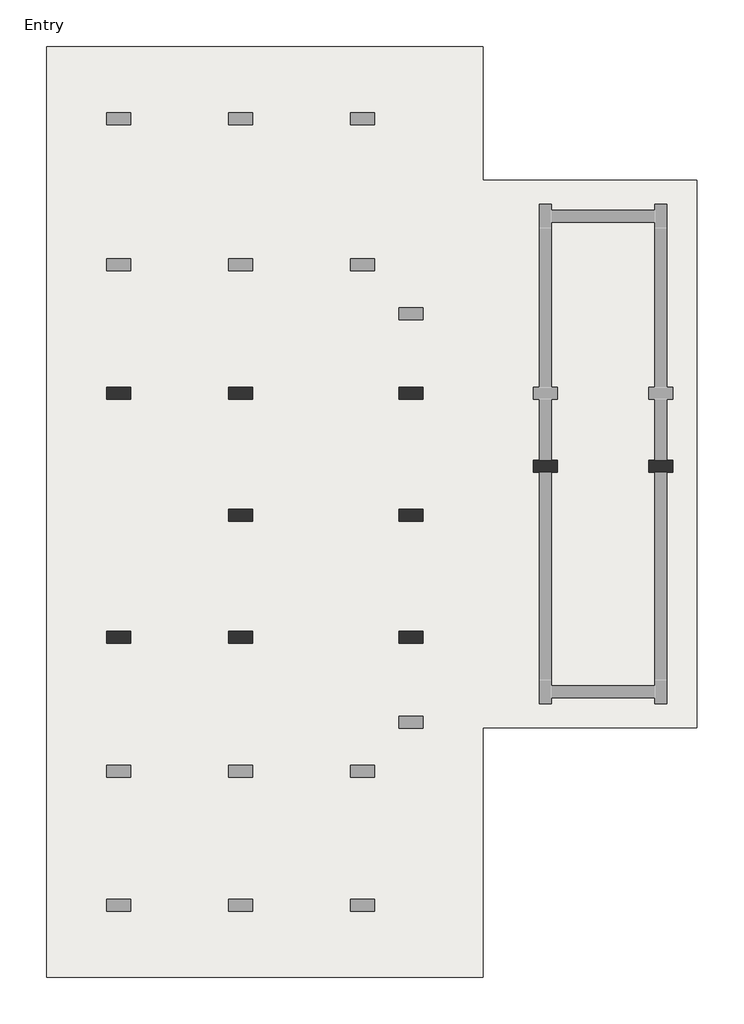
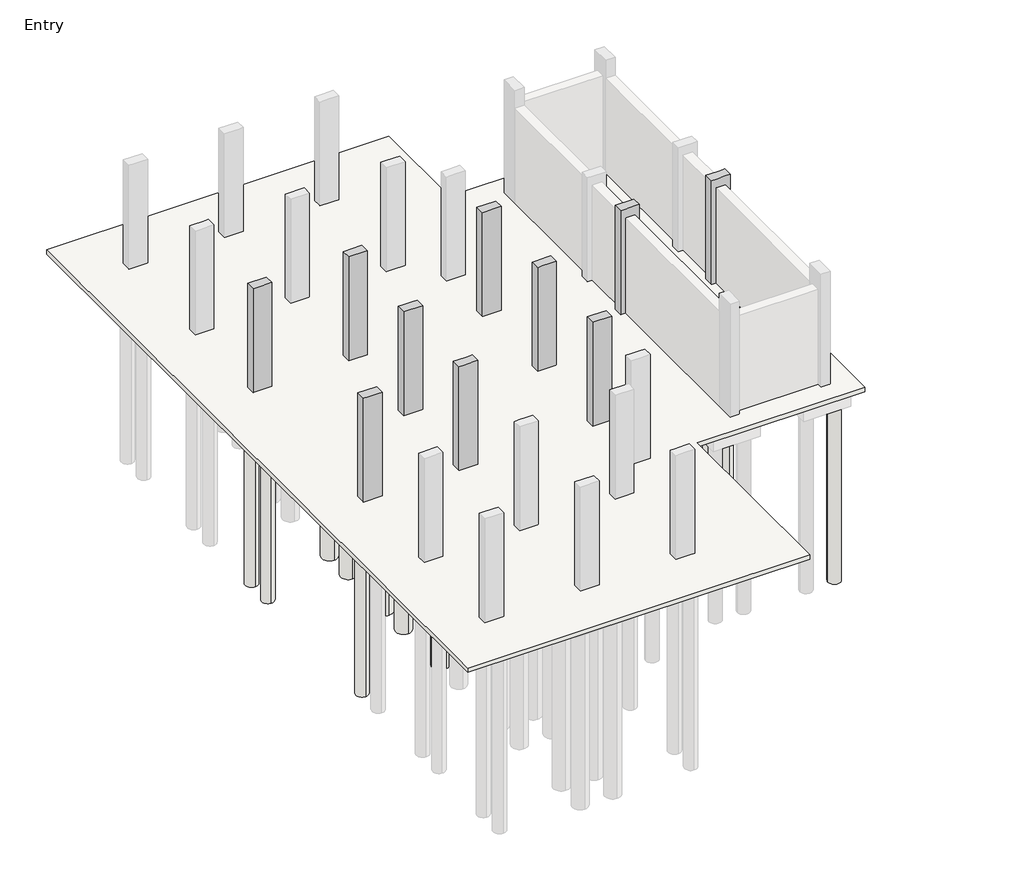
# One storey, part 2 of 3: 36 slabs, 10 columns, 3 footings.
"""IFC4 building model written with IfcOpenShell, lengths in millimetres."""

from ifc_helpers import new_model, si_unit, point, frame, frame_2d, origin, place, context, project, spatial, polyline, circle_curve, trimmed, segment, composite_curve, outline, extrude, faceted_brep, element, save

model = new_model("IFC4")

# Units and contexts
model_context = context("Model", 3, world=origin())
ifc_project = project(units=[si_unit("LENGTHUNIT", "METRE", prefix="MILLI")], contexts=[model_context])

# Site, building, storey
site = spatial("IfcSite", under=ifc_project)
building = spatial("IfcBuilding", under=site)
storey = spatial("IfcBuildingStorey", under=building, Name="Entry", Elevation=0.0)

# Columns
placement = place(None, origin())
element("IfcColumn", 1, ObjectType="M_Concrete-Rectangular-Column : 300 x 600mm", at=placement, inside=storey, context=model_context, shape_type="Brep", body=[
    faceted_brep([(-6997.5526929, 6449.19569, 0.0), (-6397.5526929, 6449.19569, 0.0), (-6397.5526929, 6149.19569, 0.0), (-6997.5526929, 6149.19569, 0.0), (-6997.5526929, 6449.19569, 3505.2), (-6397.5526929, 6449.19569, 3505.2), (-6397.5526929, 6449.19569, 2910.0), (-6997.5526929, 6449.19569, 2910.0), (-6397.5526929, 6149.19569, 3505.2), (-6397.5526929, 6149.19569, 2910.0), (-6997.5526929, 6149.19569, 3505.2), (-6997.5526929, 6149.19569, 2910.0)], [[[0, 1, 2, 3]], [[4, 5, 6, 1, 0, 7]], [[5, 8, 9, 2, 1, 6]], [[8, 10, 11, 3, 2, 9]], [[10, 4, 7, 0, 3, 11]], [[4, 10, 8, 5]]]),
])
element("IfcColumn", 2, ObjectType="M_Concrete-Rectangular-Column : 300 x 600mm", at=placement, inside=storey, context=model_context, shape_type="Brep", body=[
    faceted_brep([(-11264.7526929, 6449.19569, 0.0), (-10664.7526929, 6449.19569, 0.0), (-10664.7526929, 6149.19569, 0.0), (-11264.7526929, 6149.19569, 0.0), (-11264.7526929, 6449.19569, 3505.2), (-10664.7526929, 6449.19569, 3505.2), (-10664.7526929, 6449.19569, 2910.0), (-11264.7526929, 6449.19569, 2910.0), (-10664.7526929, 6149.19569, 3505.2), (-10664.7526929, 6149.19569, 2910.0), (-11264.7526929, 6149.19569, 3505.2), (-11264.7526929, 6149.19569, 2910.0)], [[[0, 1, 2, 3]], [[4, 5, 6, 1, 0, 7]], [[5, 8, 9, 2, 1, 6]], [[8, 10, 11, 3, 2, 9]], [[10, 4, 7, 0, 3, 11]], [[4, 10, 8, 5]]]),
])
element("IfcColumn", 3, ObjectType="M_Concrete-Rectangular-Column : 300 x 600mm", at=placement, inside=storey, context=model_context, shape_type="Brep", body=[
    faceted_brep([(-14312.7526929, 6449.19569, 0.0), (-13712.7526929, 6449.19569, 0.0), (-13712.7526929, 6149.19569, 0.0), (-14312.7526929, 6149.19569, 0.0), (-14312.7526929, 6449.19569, 3505.2), (-14162.7526929, 6449.19569, 3505.2), (-13862.7526929, 6449.19569, 3505.2), (-13712.7526929, 6449.19569, 3505.2), (-13712.7526929, 6449.19569, 2910.0), (-13712.7526929, 6149.19569, 3505.2), (-13712.7526929, 6149.19569, 2910.0), (-14012.7526929, 6149.19569, 3505.2), (-14312.7526929, 6149.19569, 3505.2)], [[[0, 1, 2, 3]], [[4, 5, 6, 7, 8, 1, 0]], [[7, 9, 10, 2, 1, 8]], [[9, 11, 12, 3, 2, 10]], [[12, 4, 0, 3]], [[4, 12, 11, 9, 7, 6, 5]]]),
])
element("IfcColumn", 4, ObjectType="M_Concrete-Rectangular-Column : 300 x 600mm", at=placement, inside=storey, context=model_context, shape_type="Brep", body=[
    faceted_brep([(-3644.7526929, 4620.39569, 0.0), (-3494.7526929, 4620.39569, 0.0), (-3194.7526929, 4620.39569, 0.0), (-3044.7526929, 4620.39569, 0.0), (-3044.7526929, 4320.39569, 0.0), (-3194.7526929, 4320.39569, 0.0), (-3494.7526929, 4320.39569, 0.0), (-3644.7526929, 4320.39569, 0.0), (-3644.7526929, 4620.39569, 2910.0), (-3644.7526929, 4620.39569, 3510.0), (-3494.7526929, 4620.39569, 3510.0), (-3194.7526929, 4620.39569, 3510.0), (-3044.7526929, 4620.39569, 3510.0), (-3044.7526929, 4620.39569, 2910.0), (-3044.7526929, 4320.39569, 3510.0), (-3044.7526929, 4320.39569, 2910.0), (-3194.7526929, 4320.39569, 3510.0), (-3494.7526929, 4320.39569, 3510.0), (-3644.7526929, 4320.39569, 3510.0), (-3644.7526929, 4320.39569, 2910.0)], [[[0, 1, 2, 3, 4, 5, 6, 7]], [[3, 2, 1, 0, 8, 9, 10, 11, 12, 13]], [[4, 3, 13, 12, 14, 15]], [[7, 6, 5, 4, 15, 14, 16, 17, 18, 19]], [[0, 7, 19, 18, 9, 8]], [[12, 11, 10, 9, 18, 17, 16, 14]]]),
])
element("IfcColumn", 5, ObjectType="M_Concrete-Rectangular-Column : 300 x 600mm", at=placement, inside=storey, context=model_context, shape_type="Brep", body=[
    faceted_brep([(-749.1526929, 4620.39569, 0.0), (-599.1526929, 4620.39569, 0.0), (-299.1526929, 4620.39569, 0.0), (-149.1526929, 4620.39569, 0.0), (-149.1526929, 4320.39569, 0.0), (-299.1526929, 4320.39569, 0.0), (-599.1526929, 4320.39569, 0.0), (-749.1526929, 4320.39569, 0.0), (-749.1526929, 4620.39569, 3510.0), (-599.1526929, 4620.39569, 3510.0), (-299.1526929, 4620.39569, 3510.0), (-149.1526929, 4620.39569, 3510.0), (-149.1526929, 4320.39569, 3510.0), (-299.1526929, 4320.39569, 3510.0), (-599.1526929, 4320.39569, 3510.0), (-749.1526929, 4320.39569, 3510.0)], [[[0, 1, 2, 3, 4, 5, 6, 7]], [[3, 2, 1, 0, 8, 9, 10, 11]], [[4, 3, 11, 12]], [[7, 6, 5, 4, 12, 13, 14, 15]], [[0, 7, 15, 8]], [[11, 10, 9, 8, 15, 14, 13, 12]]]),
])
element("IfcColumn", 6, ObjectType="M_Concrete-Rectangular-Column : 300 x 600mm", at=placement, inside=storey, context=model_context, shape_type="Brep", body=[
    faceted_brep([(-6997.5526929, 3401.19569, 0.0), (-6397.5526929, 3401.19569, 0.0), (-6397.5526929, 3101.19569, 0.0), (-6997.5526929, 3101.19569, 0.0), (-6997.5526929, 3401.19569, 3505.2), (-6847.5526929, 3401.19569, 3505.2), (-6547.5526929, 3401.19569, 3505.2), (-6397.5526929, 3401.19569, 3505.2), (-6397.5526929, 3101.19569, 3505.2), (-6547.5526929, 3101.19569, 3505.2), (-6847.5526929, 3101.19569, 3505.2), (-6997.5526929, 3101.19569, 3505.2)], [[[0, 1, 2, 3]], [[4, 5, 6, 7, 1, 0]], [[7, 8, 2, 1]], [[8, 9, 10, 11, 3, 2]], [[11, 4, 0, 3]], [[4, 11, 10, 9, 8, 7, 6, 5]]]),
])
element("IfcColumn", 7, ObjectType="M_Concrete-Rectangular-Column : 300 x 600mm", at=placement, inside=storey, context=model_context, shape_type="Brep", body=[
    faceted_brep([(-11264.7526929, 3401.19569, 0.0), (-10664.7526929, 3401.19569, 0.0), (-10664.7526929, 3101.19569, 0.0), (-11264.7526929, 3101.19569, 0.0), (-11264.7526929, 3401.19569, 3505.2), (-11114.7526929, 3401.19569, 3505.2), (-10814.7526929, 3401.19569, 3505.2), (-10664.7526929, 3401.19569, 3505.2), (-10664.7526929, 3101.19569, 3505.2), (-10814.7526929, 3101.19569, 3505.2), (-11114.7526929, 3101.19569, 3505.2), (-11264.7526929, 3101.19569, 3505.2)], [[[0, 1, 2, 3]], [[4, 5, 6, 7, 1, 0]], [[7, 8, 2, 1]], [[8, 9, 10, 11, 3, 2]], [[11, 4, 0, 3]], [[4, 11, 10, 9, 8, 7, 6, 5]]]),
])
element("IfcColumn", 8, ObjectType="M_Concrete-Rectangular-Column : 300 x 600mm", at=placement, inside=storey, context=model_context, shape_type="Brep", body=[
    faceted_brep([(-14312.7526929, 353.19569, 0.0), (-13712.7526929, 353.19569, 0.0), (-13712.7526929, 53.19569, 0.0), (-14312.7526929, 53.19569, 0.0), (-14312.7526929, 353.19569, 3505.2), (-14012.7526929, 353.19569, 3505.2), (-13712.7526929, 353.19569, 3505.2), (-13712.7526929, 353.19569, 2910.0), (-13712.7526929, 53.19569, 3505.2), (-13712.7526929, 53.19569, 2910.0), (-13862.7526929, 53.19569, 3505.2), (-14162.7526929, 53.19569, 3505.2), (-14312.7526929, 53.19569, 3505.2)], [[[0, 1, 2, 3]], [[4, 5, 6, 7, 1, 0]], [[6, 8, 9, 2, 1, 7]], [[8, 10, 11, 12, 3, 2, 9]], [[12, 4, 0, 3]], [[4, 12, 11, 10, 8, 6, 5]]]),
])
element("IfcColumn", 9, ObjectType="M_Concrete-Rectangular-Column : 300 x 600mm", at=placement, inside=storey, context=model_context, shape_type="Brep", body=[
    faceted_brep([(-11264.7526929, 353.19569, 0.0), (-10664.7526929, 353.19569, 0.0), (-10664.7526929, 53.19569, 0.0), (-11264.7526929, 53.19569, 0.0), (-11264.7526929, 353.19569, 3505.2), (-11114.7526929, 353.19569, 3505.2), (-10814.7526929, 353.19569, 3505.2), (-10664.7526929, 353.19569, 3505.2), (-10664.7526929, 353.19569, 2910.0), (-11264.7526929, 353.19569, 2910.0), (-10664.7526929, 53.19569, 3505.2), (-10664.7526929, 53.19569, 2910.0), (-10814.7526929, 53.19569, 3505.2), (-11114.7526929, 53.19569, 3505.2), (-11264.7526929, 53.19569, 3505.2), (-11264.7526929, 53.19569, 2910.0)], [[[0, 1, 2, 3]], [[4, 5, 6, 7, 8, 1, 0, 9]], [[7, 10, 11, 2, 1, 8]], [[10, 12, 13, 14, 15, 3, 2, 11]], [[14, 4, 9, 0, 3, 15]], [[4, 14, 13, 12, 10, 7, 6, 5]]]),
])
element("IfcColumn", 10, ObjectType="M_Concrete-Rectangular-Column : 300 x 600mm", at=placement, inside=storey, context=model_context, shape_type="Brep", body=[
    faceted_brep([(-6997.5526929, 353.19569, 0.0), (-6397.5526929, 353.19569, 0.0), (-6397.5526929, 53.19569, 0.0), (-6997.5526929, 53.19569, 0.0), (-6997.5526929, 353.19569, 3505.2), (-6847.5526929, 353.19569, 3505.2), (-6547.5526929, 353.19569, 3505.2), (-6397.5526929, 353.19569, 3505.2), (-6997.5526929, 353.19569, 2910.0), (-6397.5526929, 53.19569, 3505.2), (-6547.5526929, 53.19569, 3505.2), (-6847.5526929, 53.19569, 3505.2), (-6997.5526929, 53.19569, 3505.2), (-6997.5526929, 53.19569, 2910.0)], [[[0, 1, 2, 3]], [[4, 5, 6, 7, 1, 0, 8]], [[7, 9, 2, 1]], [[9, 10, 11, 12, 13, 3, 2]], [[12, 4, 8, 0, 3, 13]], [[4, 12, 11, 10, 9, 7, 6, 5]]]),
])

# Footings
element("IfcFooting", 11, ObjectType="Bearing Footing - 900 x 300", at=placement, inside=storey, context=model_context, shape_type="SweptSolid", body=[
    extrude(outline(polyline([(-3794.7526929, 4620.39569), (-3794.7526929, 6149.19569), (-3744.7526929, 6149.19569), (-3744.7526929, 5549.19569), (-2944.7526929, 5549.19569), (-2944.7526929, 6149.19569), (-2894.7526929, 6149.19569), (-2894.7526929, 4620.39569), (-2944.7526929, 4620.39569), (-2944.7526929, 5220.39569), (-3744.7526929, 5220.39569), (-3744.7526929, 4620.39569), (-3794.7526929, 4620.39569)])), frame((0.0, 0.0, -300.0), z_axis=(0.0, 0.0, 1.0), x_axis=(1.0, 0.0, 0.0)), (0.0, 0.0, 1.0), 150.0),
])
element("IfcFooting", 12, ObjectType="Bearing Footing - 900 x 300", at=placement, inside=storey, context=model_context, shape_type="Brep", body=[
    faceted_brep([(-3744.7526929, 4320.39569, -300.0), (-3794.7526929, 4320.39569, -300.0), (-3794.7526929, 4320.39569, -150.0), (-3744.7526929, 4320.39569, -150.0), (-2894.7526929, 4320.39569, -300.0), (-2944.7526929, 4320.39569, -300.0), (-2944.7526929, 4320.39569, -150.0), (-2894.7526929, 4320.39569, -150.0), (-3794.7526929, -768.40431, -300.0), (-3794.7526929, -768.40431, -150.0), (-3744.7526929, 3720.39569, -300.0), (-2944.7526929, 3720.39569, -300.0), (-2894.7526929, -718.40431, -300.0), (-2894.7526929, -768.40431, -300.0), (-2894.7526929, -718.40431, -150.0), (-2894.7526929, -768.40431, -150.0), (-3744.7526929, 3720.39569, -150.0), (-2944.7526929, 3720.39569, -150.0)], [[[0, 1, 2, 3]], [[4, 5, 6, 7]], [[1, 8, 9, 2]], [[1, 0, 10, 11, 5, 4, 12, 13, 8]], [[13, 12, 4, 7, 14, 15]], [[10, 0, 3, 16]], [[11, 10, 16, 17]], [[5, 11, 17, 6]], [[8, 13, 15, 9]], [[3, 2, 9, 15, 14, 7, 6, 17, 16]]]),
])
element("IfcFooting", 13, ObjectType="Bearing Footing - 900 x 300", at=placement, inside=storey, context=model_context, shape_type="SweptSolid", body=[
    extrude(outline(polyline([(-899.1526929, 4320.39569), (-849.1526929, 4320.39569), (-849.1526929, 3720.39569), (-49.1526929, 3720.39569), (-49.1526929, 4320.39569), (0.8473071, 4320.39569), (0.8473071, -768.40431), (-599.1526929, -768.40431), (-599.1526929, -718.40431), (-899.1526929, -718.40431), (-899.1526929, 4320.39569)])), frame((0.0, 0.0, -300.0), z_axis=(0.0, 0.0, 1.0), x_axis=(1.0, 0.0, 0.0)), (0.0, 0.0, 1.0), 150.0),
])

# Slabs
element("IfcSlab", 14, ObjectType="150mm Foundation Slab", at=placement, inside=storey, context=model_context, shape_type="SweptSolid", body=[
    extrude(outline(polyline([(-4897.5526929, 14957.19569), (-4897.5526929, 11618.79569), (450.8473071, 11618.79569), (450.8473071, -2068.40431), (-4897.5526929, -2068.40431), (-4897.5526929, -8302.40431), (-15812.7526929, -8302.40431), (-15812.7526929, 14957.19569), (-4897.5526929, 14957.19569)])), frame((0.0, 0.0, -150.0), z_axis=(0.0, 0.0, 1.0), x_axis=(1.0, 0.0, 0.0)), (0.0, 0.0, 1.0), 150.0),
])
element("IfcSlab", 15, ObjectType="M_Pile Cap-2 Pile : 800 x 1500 x 900mm", at=placement, inside=storey, context=model_context, shape_type="SweptSolid", body=[
    extrude(outline(polyline([(-14412.7526929, 7049.19569), (-13612.7526929, 7049.19569), (-13612.7526929, 5549.19569), (-14412.7526929, 5549.19569), (-14412.7526929, 7049.19569)])), frame((0.0, 0.0, -900.0), z_axis=(0.0, 0.0, 1.0), x_axis=(1.0, 0.0, 0.0)), (0.0, 0.0, 1.0), 750.0),
])
element("IfcSlab", 16, ObjectType="M_Pile Cap-2 Pile : 800 x 1500 x 900mm", at=placement, inside=storey, context=model_context, shape_type="SweptSolid", body=[
    extrude(outline(polyline([(-7097.5526929, 7049.19569), (-6297.5526929, 7049.19569), (-6297.5526929, 5549.19569), (-7097.5526929, 5549.19569), (-7097.5526929, 7049.19569)])), frame((0.0, 0.0, -900.0), z_axis=(0.0, 0.0, 1.0), x_axis=(1.0, 0.0, 0.0)), (0.0, 0.0, 1.0), 750.0),
])
element("IfcSlab", 17, ObjectType="M_Pile Cap-2 Pile : 800 x 1500 x 900mm", at=placement, inside=storey, context=model_context, shape_type="SweptSolid", body=[
    extrude(outline(polyline([(-7097.5526929, 4001.19569), (-6297.5526929, 4001.19569), (-6297.5526929, 2501.19569), (-7097.5526929, 2501.19569), (-7097.5526929, 4001.19569)])), frame((0.0, 0.0, -900.0), z_axis=(0.0, 0.0, 1.0), x_axis=(1.0, 0.0, 0.0)), (0.0, 0.0, 1.0), 750.0),
])
element("IfcSlab", 18, ObjectType="M_Pile Cap-2 Pile : 800 x 1500 x 900mm", at=placement, inside=storey, context=model_context, shape_type="SweptSolid", body=[
    extrude(outline(polyline([(-7097.5526929, 953.19569), (-6297.5526929, 953.19569), (-6297.5526929, -546.80431), (-7097.5526929, -546.80431), (-7097.5526929, 953.19569)])), frame((0.0, 0.0, -900.0), z_axis=(0.0, 0.0, 1.0), x_axis=(1.0, 0.0, 0.0)), (0.0, 0.0, 1.0), 750.0),
])
element("IfcSlab", 19, ObjectType="M_Pile Cap-2 Pile : 800 x 1500 x 900mm", at=placement, inside=storey, context=model_context, shape_type="SweptSolid", body=[
    extrude(outline(polyline([(-14412.7526929, 953.19569), (-13612.7526929, 953.19569), (-13612.7526929, -546.80431), (-14412.7526929, -546.80431), (-14412.7526929, 953.19569)])), frame((0.0, 0.0, -900.0), z_axis=(0.0, 0.0, 1.0), x_axis=(1.0, 0.0, 0.0)), (0.0, 0.0, 1.0), 750.0),
])
element("IfcSlab", 20, ObjectType="M_Pile Cap-2 Pile : 800 x 1500 x 900mm", at=placement, inside=storey, context=model_context, shape_type="Brep", body=[
    faceted_brep([(-3744.7526929, 5220.39569, -900.0), (-2944.7526929, 5220.39569, -900.0), (-2944.7526929, 3720.39569, -900.0), (-3744.7526929, 3720.39569, -900.0), (-3744.7526929, 3720.39569, -300.0), (-3744.7526929, 3720.39569, -150.0), (-3744.7526929, 4320.39569, -150.0), (-3744.7526929, 4620.39569, -150.0), (-3744.7526929, 5220.39569, -150.0), (-3744.7526929, 5220.39569, -300.0), (-2944.7526929, 3720.39569, -300.0), (-2944.7526929, 3720.39569, -150.0), (-2944.7526929, 5220.39569, -300.0), (-2944.7526929, 5220.39569, -150.0), (-2944.7526929, 4620.39569, -150.0), (-2944.7526929, 4320.39569, -150.0)], [[[0, 1, 2, 3]], [[0, 3, 4, 5, 6, 7, 8, 9]], [[3, 2, 10, 11, 5, 4]], [[2, 1, 12, 13, 14, 15, 11, 10]], [[1, 0, 9, 8, 13, 12]], [[8, 7, 6, 5, 11, 15, 14, 13]]]),
])
element("IfcSlab", 21, ObjectType="M_Pile Cap-2 Pile : 800 x 1500 x 900mm", at=placement, inside=storey, context=model_context, shape_type="Brep", body=[
    faceted_brep([(-849.1526929, 5220.39569, -900.0), (-49.1526929, 5220.39569, -900.0), (-49.1526929, 3720.39569, -900.0), (-849.1526929, 3720.39569, -900.0), (-849.1526929, 3720.39569, -300.0), (-849.1526929, 3720.39569, -150.0), (-849.1526929, 4320.39569, -150.0), (-849.1526929, 4620.39569, -150.0), (-849.1526929, 5220.39569, -150.0), (-849.1526929, 5220.39569, -300.0), (-49.1526929, 3720.39569, -300.0), (-49.1526929, 3720.39569, -150.0), (-49.1526929, 5220.39569, -300.0), (-49.1526929, 5220.39569, -150.0), (-49.1526929, 4620.39569, -150.0), (-49.1526929, 4320.39569, -150.0)], [[[0, 1, 2, 3]], [[0, 3, 4, 5, 6, 7, 8, 9]], [[3, 2, 10, 11, 5, 4]], [[2, 1, 12, 13, 14, 15, 11, 10]], [[1, 0, 9, 8, 13, 12]], [[8, 7, 6, 5, 11, 15, 14, 13]]]),
])
element("IfcSlab", 22, ObjectType="M_Pile Cap-4 Pile : 1800 x 1800 x 900mm", at=placement, inside=storey, context=model_context, shape_type="SweptSolid", body=[
    extrude(outline(polyline([(-11864.7526929, 7199.19569), (-10064.7526929, 7199.19569), (-10064.7526929, 5399.19569), (-11864.7526929, 5399.19569), (-11864.7526929, 7199.19569)])), frame((0.0, 0.0, -900.0), z_axis=(0.0, 0.0, 1.0), x_axis=(1.0, 0.0, 0.0)), (0.0, 0.0, 1.0), 750.0),
])
element("IfcSlab", 23, ObjectType="M_Pile Cap-4 Pile : 1800 x 1800 x 900mm", at=placement, inside=storey, context=model_context, shape_type="SweptSolid", body=[
    extrude(outline(polyline([(-11864.7526929, 4151.19569), (-10064.7526929, 4151.19569), (-10064.7526929, 2351.19569), (-11864.7526929, 2351.19569), (-11864.7526929, 4151.19569)])), frame((0.0, 0.0, -900.0), z_axis=(0.0, 0.0, 1.0), x_axis=(1.0, 0.0, 0.0)), (0.0, 0.0, 1.0), 750.0),
])
element("IfcSlab", 24, ObjectType="M_Pile Cap-4 Pile : 1800 x 1800 x 900mm", at=placement, inside=storey, context=model_context, shape_type="SweptSolid", body=[
    extrude(outline(polyline([(-11864.7526929, 1103.19569), (-10064.7526929, 1103.19569), (-10064.7526929, -696.80431), (-11864.7526929, -696.80431), (-11864.7526929, 1103.19569)])), frame((0.0, 0.0, -900.0), z_axis=(0.0, 0.0, 1.0), x_axis=(1.0, 0.0, 0.0)), (0.0, 0.0, 1.0), 750.0),
])
element("IfcSlab", 25, ObjectType="M_Pile-Steel Pipe : 400mm Diameter", at=placement, inside=storey, context=model_context, shape_type="SweptSolid", body=[
    extrude(outline(composite_curve([segment(trimmed(circle_curve(frame_2d((-14012.7526929, 5849.19569)), 200.0), [point((-14012.7526929, 5649.19569))], [point((-14012.7526929, 6049.19569))], False, "CARTESIAN"), True, "CONTINUOUS"), segment(trimmed(circle_curve(frame_2d((-14012.7526929, 5849.19569)), 200.0), [point((-14012.7526929, 6049.19569))], [point((-14012.7526929, 5649.19569))], False, "CARTESIAN"), True, "CONTINUOUS")], self_intersect=False)), frame((0.0, 0.0, -6900.0), z_axis=(0.0, 0.0, 1.0), x_axis=(1.0, 0.0, 0.0)), (0.0, 0.0, 1.0), 6000.0),
])
element("IfcSlab", 26, ObjectType="M_Pile-Steel Pipe : 400mm Diameter", at=placement, inside=storey, context=model_context, shape_type="SweptSolid", body=[
    extrude(outline(composite_curve([segment(trimmed(circle_curve(frame_2d((-14012.7526929, 6749.19569)), 200.0), [point((-14012.7526929, 6549.19569))], [point((-14012.7526929, 6949.19569))], False, "CARTESIAN"), True, "CONTINUOUS"), segment(trimmed(circle_curve(frame_2d((-14012.7526929, 6749.19569)), 200.0), [point((-14012.7526929, 6949.19569))], [point((-14012.7526929, 6549.19569))], False, "CARTESIAN"), True, "CONTINUOUS")], self_intersect=False)), frame((0.0, 0.0, -6900.0), z_axis=(0.0, 0.0, 1.0), x_axis=(1.0, 0.0, 0.0)), (0.0, 0.0, 1.0), 6000.0),
])
element("IfcSlab", 27, ObjectType="M_Pile-Steel Pipe : 400mm Diameter", at=placement, inside=storey, context=model_context, shape_type="SweptSolid", body=[
    extrude(outline(composite_curve([segment(trimmed(circle_curve(frame_2d((-6697.5526929, 5849.19569)), 200.0), [point((-6697.5526929, 5649.19569))], [point((-6697.5526929, 6049.19569))], False, "CARTESIAN"), True, "CONTINUOUS"), segment(trimmed(circle_curve(frame_2d((-6697.5526929, 5849.19569)), 200.0), [point((-6697.5526929, 6049.19569))], [point((-6697.5526929, 5649.19569))], False, "CARTESIAN"), True, "CONTINUOUS")], self_intersect=False)), frame((0.0, 0.0, -6900.0), z_axis=(0.0, 0.0, 1.0), x_axis=(1.0, 0.0, 0.0)), (0.0, 0.0, 1.0), 6000.0),
])
element("IfcSlab", 28, ObjectType="M_Pile-Steel Pipe : 400mm Diameter", at=placement, inside=storey, context=model_context, shape_type="SweptSolid", body=[
    extrude(outline(composite_curve([segment(trimmed(circle_curve(frame_2d((-6697.5526929, 6749.19569)), 200.0), [point((-6697.5526929, 6549.19569))], [point((-6697.5526929, 6949.19569))], False, "CARTESIAN"), True, "CONTINUOUS"), segment(trimmed(circle_curve(frame_2d((-6697.5526929, 6749.19569)), 200.0), [point((-6697.5526929, 6949.19569))], [point((-6697.5526929, 6549.19569))], False, "CARTESIAN"), True, "CONTINUOUS")], self_intersect=False)), frame((0.0, 0.0, -6900.0), z_axis=(0.0, 0.0, 1.0), x_axis=(1.0, 0.0, 0.0)), (0.0, 0.0, 1.0), 6000.0),
])
element("IfcSlab", 29, ObjectType="M_Pile-Steel Pipe : 400mm Diameter", at=placement, inside=storey, context=model_context, shape_type="SweptSolid", body=[
    extrude(outline(composite_curve([segment(trimmed(circle_curve(frame_2d((-6697.5526929, 2801.19569)), 200.0), [point((-6697.5526929, 2601.19569))], [point((-6697.5526929, 3001.19569))], False, "CARTESIAN"), True, "CONTINUOUS"), segment(trimmed(circle_curve(frame_2d((-6697.5526929, 2801.19569)), 200.0), [point((-6697.5526929, 3001.19569))], [point((-6697.5526929, 2601.19569))], False, "CARTESIAN"), True, "CONTINUOUS")], self_intersect=False)), frame((0.0, 0.0, -6900.0), z_axis=(0.0, 0.0, 1.0), x_axis=(1.0, 0.0, 0.0)), (0.0, 0.0, 1.0), 6000.0),
])
element("IfcSlab", 30, ObjectType="M_Pile-Steel Pipe : 400mm Diameter", at=placement, inside=storey, context=model_context, shape_type="SweptSolid", body=[
    extrude(outline(composite_curve([segment(trimmed(circle_curve(frame_2d((-6697.5526929, 3701.19569)), 200.0), [point((-6697.5526929, 3501.19569))], [point((-6697.5526929, 3901.19569))], False, "CARTESIAN"), True, "CONTINUOUS"), segment(trimmed(circle_curve(frame_2d((-6697.5526929, 3701.19569)), 200.0), [point((-6697.5526929, 3901.19569))], [point((-6697.5526929, 3501.19569))], False, "CARTESIAN"), True, "CONTINUOUS")], self_intersect=False)), frame((0.0, 0.0, -6900.0), z_axis=(0.0, 0.0, 1.0), x_axis=(1.0, 0.0, 0.0)), (0.0, 0.0, 1.0), 6000.0),
])
element("IfcSlab", 31, ObjectType="M_Pile-Steel Pipe : 400mm Diameter", at=placement, inside=storey, context=model_context, shape_type="SweptSolid", body=[
    extrude(outline(composite_curve([segment(trimmed(circle_curve(frame_2d((-6697.5526929, 653.19569)), 200.0), [point((-6697.5526929, 453.19569))], [point((-6697.5526929, 853.19569))], False, "CARTESIAN"), True, "CONTINUOUS"), segment(trimmed(circle_curve(frame_2d((-6697.5526929, 653.19569)), 200.0), [point((-6697.5526929, 853.19569))], [point((-6697.5526929, 453.19569))], False, "CARTESIAN"), True, "CONTINUOUS")], self_intersect=False)), frame((0.0, 0.0, -6900.0), z_axis=(0.0, 0.0, 1.0), x_axis=(1.0, 0.0, 0.0)), (0.0, 0.0, 1.0), 6000.0),
])
element("IfcSlab", 32, ObjectType="M_Pile-Steel Pipe : 400mm Diameter", at=placement, inside=storey, context=model_context, shape_type="SweptSolid", body=[
    extrude(outline(composite_curve([segment(trimmed(circle_curve(frame_2d((-14012.7526929, 653.19569)), 200.0), [point((-14012.7526929, 453.19569))], [point((-14012.7526929, 853.19569))], False, "CARTESIAN"), True, "CONTINUOUS"), segment(trimmed(circle_curve(frame_2d((-14012.7526929, 653.19569)), 200.0), [point((-14012.7526929, 853.19569))], [point((-14012.7526929, 453.19569))], False, "CARTESIAN"), True, "CONTINUOUS")], self_intersect=False)), frame((0.0, 0.0, -6900.0), z_axis=(0.0, 0.0, 1.0), x_axis=(1.0, 0.0, 0.0)), (0.0, 0.0, 1.0), 6000.0),
])
element("IfcSlab", 33, ObjectType="M_Pile-Steel Pipe : 400mm Diameter", at=placement, inside=storey, context=model_context, shape_type="SweptSolid", body=[
    extrude(outline(composite_curve([segment(trimmed(circle_curve(frame_2d((-3344.7526929, 5849.19569)), 200.0), [point((-3344.7526929, 5649.19569))], [point((-3344.7526929, 6049.19569))], False, "CARTESIAN"), True, "CONTINUOUS"), segment(trimmed(circle_curve(frame_2d((-3344.7526929, 5849.19569)), 200.0), [point((-3344.7526929, 6049.19569))], [point((-3344.7526929, 5649.19569))], False, "CARTESIAN"), True, "CONTINUOUS")], self_intersect=False)), frame((0.0, 0.0, -6900.0), z_axis=(0.0, 0.0, 1.0), x_axis=(1.0, 0.0, 0.0)), (0.0, 0.0, 1.0), 6000.0),
])
element("IfcSlab", 34, ObjectType="M_Pile-Steel Pipe : 400mm Diameter", at=placement, inside=storey, context=model_context, shape_type="SweptSolid", body=[
    extrude(outline(composite_curve([segment(trimmed(circle_curve(frame_2d((-3344.7526929, 4020.39569)), 200.0), [point((-3344.7526929, 3820.39569))], [point((-3344.7526929, 4220.39569))], False, "CARTESIAN"), True, "CONTINUOUS"), segment(trimmed(circle_curve(frame_2d((-3344.7526929, 4020.39569)), 200.0), [point((-3344.7526929, 4220.39569))], [point((-3344.7526929, 3820.39569))], False, "CARTESIAN"), True, "CONTINUOUS")], self_intersect=False)), frame((0.0, 0.0, -6900.0), z_axis=(0.0, 0.0, 1.0), x_axis=(1.0, 0.0, 0.0)), (0.0, 0.0, 1.0), 6000.0),
])
element("IfcSlab", 35, ObjectType="M_Pile-Steel Pipe : 400mm Diameter", at=placement, inside=storey, context=model_context, shape_type="SweptSolid", body=[
    extrude(outline(composite_curve([segment(trimmed(circle_curve(frame_2d((-3344.7526929, 4920.39569)), 200.0), [point((-3344.7526929, 4720.39569))], [point((-3344.7526929, 5120.39569))], False, "CARTESIAN"), True, "CONTINUOUS"), segment(trimmed(circle_curve(frame_2d((-3344.7526929, 4920.39569)), 200.0), [point((-3344.7526929, 5120.39569))], [point((-3344.7526929, 4720.39569))], False, "CARTESIAN"), True, "CONTINUOUS")], self_intersect=False)), frame((0.0, 0.0, -6900.0), z_axis=(0.0, 0.0, 1.0), x_axis=(1.0, 0.0, 0.0)), (0.0, 0.0, 1.0), 6000.0),
])
element("IfcSlab", 36, ObjectType="M_Pile-Steel Pipe : 400mm Diameter", at=placement, inside=storey, context=model_context, shape_type="SweptSolid", body=[
    extrude(outline(composite_curve([segment(trimmed(circle_curve(frame_2d((-449.1526929, 5849.19569)), 200.0), [point((-449.1526929, 5649.19569))], [point((-449.1526929, 6049.19569))], False, "CARTESIAN"), True, "CONTINUOUS"), segment(trimmed(circle_curve(frame_2d((-449.1526929, 5849.19569)), 200.0), [point((-449.1526929, 6049.19569))], [point((-449.1526929, 5649.19569))], False, "CARTESIAN"), True, "CONTINUOUS")], self_intersect=False)), frame((0.0, 0.0, -6900.0), z_axis=(0.0, 0.0, 1.0), x_axis=(1.0, 0.0, 0.0)), (0.0, 0.0, 1.0), 6000.0),
])
element("IfcSlab", 37, ObjectType="M_Pile-Steel Pipe : 400mm Diameter", at=placement, inside=storey, context=model_context, shape_type="SweptSolid", body=[
    extrude(outline(composite_curve([segment(trimmed(circle_curve(frame_2d((-449.1526929, 4020.39569)), 200.0), [point((-449.1526929, 3820.39569))], [point((-449.1526929, 4220.39569))], False, "CARTESIAN"), True, "CONTINUOUS"), segment(trimmed(circle_curve(frame_2d((-449.1526929, 4020.39569)), 200.0), [point((-449.1526929, 4220.39569))], [point((-449.1526929, 3820.39569))], False, "CARTESIAN"), True, "CONTINUOUS")], self_intersect=False)), frame((0.0, 0.0, -6900.0), z_axis=(0.0, 0.0, 1.0), x_axis=(1.0, 0.0, 0.0)), (0.0, 0.0, 1.0), 6000.0),
])
element("IfcSlab", 38, ObjectType="M_Pile-Steel Pipe : 400mm Diameter", at=placement, inside=storey, context=model_context, shape_type="SweptSolid", body=[
    extrude(outline(composite_curve([segment(trimmed(circle_curve(frame_2d((-449.1526929, 4920.39569)), 200.0), [point((-449.1526929, 4720.39569))], [point((-449.1526929, 5120.39569))], False, "CARTESIAN"), True, "CONTINUOUS"), segment(trimmed(circle_curve(frame_2d((-449.1526929, 4920.39569)), 200.0), [point((-449.1526929, 5120.39569))], [point((-449.1526929, 4720.39569))], False, "CARTESIAN"), True, "CONTINUOUS")], self_intersect=False)), frame((0.0, 0.0, -6900.0), z_axis=(0.0, 0.0, 1.0), x_axis=(1.0, 0.0, 0.0)), (0.0, 0.0, 1.0), 6000.0),
])
element("IfcSlab", 39, ObjectType="M_Pile-Steel Pipe : 400mm Diameter", at=placement, inside=storey, context=model_context, shape_type="SweptSolid", body=[
    extrude(outline(composite_curve([segment(trimmed(circle_curve(frame_2d((0.8473071, -1168.40431)), 200.0), [point((200.8473071, -1168.40431))], [point((-199.1526929, -1168.40431))], False, "CARTESIAN"), True, "CONTINUOUS"), segment(trimmed(circle_curve(frame_2d((0.8473071, -1168.40431)), 200.0), [point((-199.1526929, -1168.40431))], [point((200.8473071, -1168.40431))], False, "CARTESIAN"), True, "CONTINUOUS")], self_intersect=False)), frame((0.0, 0.0, -6900.0), z_axis=(0.0, 0.0, 1.0), x_axis=(1.0, 0.0, 0.0)), (0.0, 0.0, 1.0), 6000.0),
])
element("IfcSlab", 40, ObjectType="M_Pile-Steel Pipe : 500mm Diameter", at=placement, inside=storey, context=model_context, shape_type="SweptSolid", body=[
    extrude(outline(composite_curve([segment(trimmed(circle_curve(frame_2d((-10444.7526929, 5779.19569)), 250.0), [point((-10444.7526929, 5529.19569))], [point((-10444.7526929, 6029.19569))], False, "CARTESIAN"), True, "CONTINUOUS"), segment(trimmed(circle_curve(frame_2d((-10444.7526929, 5779.19569)), 250.0), [point((-10444.7526929, 6029.19569))], [point((-10444.7526929, 5529.19569))], False, "CARTESIAN"), True, "CONTINUOUS")], self_intersect=False)), frame((0.0, 0.0, -6900.0), z_axis=(0.0, 0.0, 1.0), x_axis=(1.0, 0.0, 0.0)), (0.0, 0.0, 1.0), 6000.0),
])
element("IfcSlab", 41, ObjectType="M_Pile-Steel Pipe : 500mm Diameter", at=placement, inside=storey, context=model_context, shape_type="SweptSolid", body=[
    extrude(outline(composite_curve([segment(trimmed(circle_curve(frame_2d((-10444.7526929, 6819.19569)), 250.0), [point((-10444.7526929, 6569.19569))], [point((-10444.7526929, 7069.19569))], False, "CARTESIAN"), True, "CONTINUOUS"), segment(trimmed(circle_curve(frame_2d((-10444.7526929, 6819.19569)), 250.0), [point((-10444.7526929, 7069.19569))], [point((-10444.7526929, 6569.19569))], False, "CARTESIAN"), True, "CONTINUOUS")], self_intersect=False)), frame((0.0, 0.0, -6900.0), z_axis=(0.0, 0.0, 1.0), x_axis=(1.0, 0.0, 0.0)), (0.0, 0.0, 1.0), 6000.0),
])
element("IfcSlab", 42, ObjectType="M_Pile-Steel Pipe : 500mm Diameter", at=placement, inside=storey, context=model_context, shape_type="SweptSolid", body=[
    extrude(outline(composite_curve([segment(trimmed(circle_curve(frame_2d((-11484.7526929, 6819.19569)), 250.0), [point((-11484.7526929, 6569.19569))], [point((-11484.7526929, 7069.19569))], False, "CARTESIAN"), True, "CONTINUOUS"), segment(trimmed(circle_curve(frame_2d((-11484.7526929, 6819.19569)), 250.0), [point((-11484.7526929, 7069.19569))], [point((-11484.7526929, 6569.19569))], False, "CARTESIAN"), True, "CONTINUOUS")], self_intersect=False)), frame((0.0, 0.0, -6900.0), z_axis=(0.0, 0.0, 1.0), x_axis=(1.0, 0.0, 0.0)), (0.0, 0.0, 1.0), 6000.0),
])
element("IfcSlab", 43, ObjectType="M_Pile-Steel Pipe : 500mm Diameter", at=placement, inside=storey, context=model_context, shape_type="SweptSolid", body=[
    extrude(outline(composite_curve([segment(trimmed(circle_curve(frame_2d((-11484.7526929, 5779.19569)), 250.0), [point((-11484.7526929, 5529.19569))], [point((-11484.7526929, 6029.19569))], False, "CARTESIAN"), True, "CONTINUOUS"), segment(trimmed(circle_curve(frame_2d((-11484.7526929, 5779.19569)), 250.0), [point((-11484.7526929, 6029.19569))], [point((-11484.7526929, 5529.19569))], False, "CARTESIAN"), True, "CONTINUOUS")], self_intersect=False)), frame((0.0, 0.0, -6900.0), z_axis=(0.0, 0.0, 1.0), x_axis=(1.0, 0.0, 0.0)), (0.0, 0.0, 1.0), 6000.0),
])
element("IfcSlab", 44, ObjectType="M_Pile-Steel Pipe : 500mm Diameter", at=placement, inside=storey, context=model_context, shape_type="SweptSolid", body=[
    extrude(outline(composite_curve([segment(trimmed(circle_curve(frame_2d((-10444.7526929, 2731.19569)), 250.0), [point((-10444.7526929, 2481.19569))], [point((-10444.7526929, 2981.19569))], False, "CARTESIAN"), True, "CONTINUOUS"), segment(trimmed(circle_curve(frame_2d((-10444.7526929, 2731.19569)), 250.0), [point((-10444.7526929, 2981.19569))], [point((-10444.7526929, 2481.19569))], False, "CARTESIAN"), True, "CONTINUOUS")], self_intersect=False)), frame((0.0, 0.0, -6900.0), z_axis=(0.0, 0.0, 1.0), x_axis=(1.0, 0.0, 0.0)), (0.0, 0.0, 1.0), 6000.0),
])
element("IfcSlab", 45, ObjectType="M_Pile-Steel Pipe : 500mm Diameter", at=placement, inside=storey, context=model_context, shape_type="SweptSolid", body=[
    extrude(outline(composite_curve([segment(trimmed(circle_curve(frame_2d((-10444.7526929, 3771.19569)), 250.0), [point((-10444.7526929, 3521.19569))], [point((-10444.7526929, 4021.19569))], False, "CARTESIAN"), True, "CONTINUOUS"), segment(trimmed(circle_curve(frame_2d((-10444.7526929, 3771.19569)), 250.0), [point((-10444.7526929, 4021.19569))], [point((-10444.7526929, 3521.19569))], False, "CARTESIAN"), True, "CONTINUOUS")], self_intersect=False)), frame((0.0, 0.0, -6900.0), z_axis=(0.0, 0.0, 1.0), x_axis=(1.0, 0.0, 0.0)), (0.0, 0.0, 1.0), 6000.0),
])
element("IfcSlab", 46, ObjectType="M_Pile-Steel Pipe : 500mm Diameter", at=placement, inside=storey, context=model_context, shape_type="SweptSolid", body=[
    extrude(outline(composite_curve([segment(trimmed(circle_curve(frame_2d((-11484.7526929, 3771.19569)), 250.0), [point((-11484.7526929, 3521.19569))], [point((-11484.7526929, 4021.19569))], False, "CARTESIAN"), True, "CONTINUOUS"), segment(trimmed(circle_curve(frame_2d((-11484.7526929, 3771.19569)), 250.0), [point((-11484.7526929, 4021.19569))], [point((-11484.7526929, 3521.19569))], False, "CARTESIAN"), True, "CONTINUOUS")], self_intersect=False)), frame((0.0, 0.0, -6900.0), z_axis=(0.0, 0.0, 1.0), x_axis=(1.0, 0.0, 0.0)), (0.0, 0.0, 1.0), 6000.0),
])
element("IfcSlab", 47, ObjectType="M_Pile-Steel Pipe : 500mm Diameter", at=placement, inside=storey, context=model_context, shape_type="SweptSolid", body=[
    extrude(outline(composite_curve([segment(trimmed(circle_curve(frame_2d((-11484.7526929, 2731.19569)), 250.0), [point((-11484.7526929, 2481.19569))], [point((-11484.7526929, 2981.19569))], False, "CARTESIAN"), True, "CONTINUOUS"), segment(trimmed(circle_curve(frame_2d((-11484.7526929, 2731.19569)), 250.0), [point((-11484.7526929, 2981.19569))], [point((-11484.7526929, 2481.19569))], False, "CARTESIAN"), True, "CONTINUOUS")], self_intersect=False)), frame((0.0, 0.0, -6900.0), z_axis=(0.0, 0.0, 1.0), x_axis=(1.0, 0.0, 0.0)), (0.0, 0.0, 1.0), 6000.0),
])
element("IfcSlab", 48, ObjectType="M_Pile-Steel Pipe : 500mm Diameter", at=placement, inside=storey, context=model_context, shape_type="SweptSolid", body=[
    extrude(outline(composite_curve([segment(trimmed(circle_curve(frame_2d((-10444.7526929, 723.19569)), 250.0), [point((-10444.7526929, 473.19569))], [point((-10444.7526929, 973.19569))], False, "CARTESIAN"), True, "CONTINUOUS"), segment(trimmed(circle_curve(frame_2d((-10444.7526929, 723.19569)), 250.0), [point((-10444.7526929, 973.19569))], [point((-10444.7526929, 473.19569))], False, "CARTESIAN"), True, "CONTINUOUS")], self_intersect=False)), frame((0.0, 0.0, -6900.0), z_axis=(0.0, 0.0, 1.0), x_axis=(1.0, 0.0, 0.0)), (0.0, 0.0, 1.0), 6000.0),
])
element("IfcSlab", 49, ObjectType="M_Pile-Steel Pipe : 500mm Diameter", at=placement, inside=storey, context=model_context, shape_type="SweptSolid", body=[
    extrude(outline(composite_curve([segment(trimmed(circle_curve(frame_2d((-11484.7526929, 723.19569)), 250.0), [point((-11484.7526929, 473.19569))], [point((-11484.7526929, 973.19569))], False, "CARTESIAN"), True, "CONTINUOUS"), segment(trimmed(circle_curve(frame_2d((-11484.7526929, 723.19569)), 250.0), [point((-11484.7526929, 973.19569))], [point((-11484.7526929, 473.19569))], False, "CARTESIAN"), True, "CONTINUOUS")], self_intersect=False)), frame((0.0, 0.0, -6900.0), z_axis=(0.0, 0.0, 1.0), x_axis=(1.0, 0.0, 0.0)), (0.0, 0.0, 1.0), 6000.0),
])

save(model, "model.ifc")
